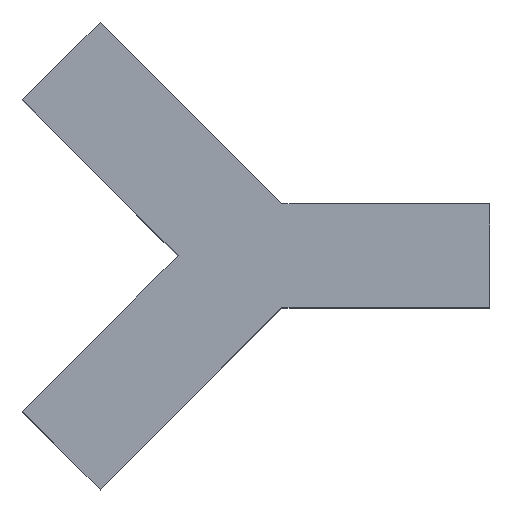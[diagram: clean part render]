
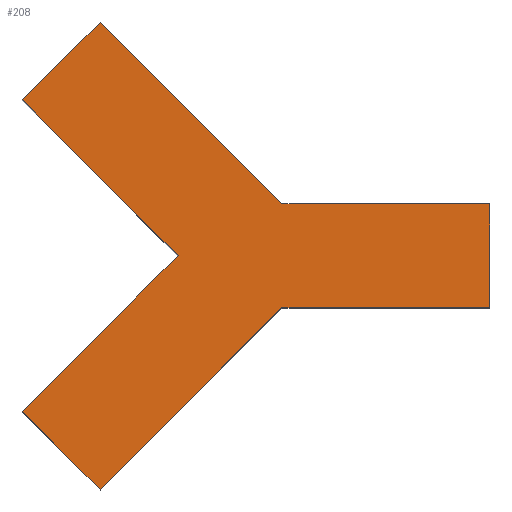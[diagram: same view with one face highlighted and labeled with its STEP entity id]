
A CAD part, top view. The second image highlights one B-rep face of the part: STEP entity #208.
In plain terms, the highlighted planar face has unit normal (0, 0, 1).
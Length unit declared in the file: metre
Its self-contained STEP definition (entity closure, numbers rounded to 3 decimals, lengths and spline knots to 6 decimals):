
#57=ORIENTED_EDGE('',*,*,#92,.T.);
#58=ORIENTED_EDGE('',*,*,#89,.T.);
#59=ORIENTED_EDGE('',*,*,#86,.T.);
#60=ORIENTED_EDGE('',*,*,#83,.T.);
#61=ORIENTED_EDGE('',*,*,#80,.T.);
#62=ORIENTED_EDGE('',*,*,#77,.T.);
#63=ORIENTED_EDGE('',*,*,#74,.T.);
#64=ORIENTED_EDGE('',*,*,#71,.T.);
#65=ORIENTED_EDGE('',*,*,#68,.T.);
#68=EDGE_CURVE('',#96,#95,#113,.T.);
#71=EDGE_CURVE('',#98,#96,#116,.T.);
#74=EDGE_CURVE('',#100,#98,#119,.F.);
#77=EDGE_CURVE('',#102,#100,#122,.F.);
#80=EDGE_CURVE('',#104,#102,#125,.T.);
#83=EDGE_CURVE('',#106,#104,#128,.T.);
#86=EDGE_CURVE('',#108,#106,#131,.T.);
#89=EDGE_CURVE('',#110,#108,#134,.T.);
#92=EDGE_CURVE('',#95,#110,#137,.T.);
#95=VERTEX_POINT('',#282);
#96=VERTEX_POINT('',#284);
#98=VERTEX_POINT('',#290);
#100=VERTEX_POINT('',#296);
#102=VERTEX_POINT('',#302);
#104=VERTEX_POINT('',#308);
#106=VERTEX_POINT('',#314);
#108=VERTEX_POINT('',#320);
#110=VERTEX_POINT('',#326);
#113=LINE('',#283,#140);
#116=LINE('',#289,#143);
#119=LINE('',#295,#146);
#122=LINE('',#301,#149);
#125=LINE('',#307,#152);
#128=LINE('',#313,#155);
#131=LINE('',#319,#158);
#134=LINE('',#325,#161);
#137=LINE('',#330,#164);
#140=VECTOR('',#231,1.);
#143=VECTOR('',#236,1.);
#146=VECTOR('',#241,1.);
#149=VECTOR('',#246,1.);
#152=VECTOR('',#251,1.);
#155=VECTOR('',#256,1.);
#158=VECTOR('',#261,1.);
#161=VECTOR('',#266,1.);
#164=VECTOR('',#271,1.);
#175=EDGE_LOOP('',(#57,#58,#59,#60,#61,#62,#63,#64,#65));
#186=FACE_BOUND('',#175,.T.);
#197=PLANE('',#224);
#208=ADVANCED_FACE('',(#186),#197,.T.);
#224=AXIS2_PLACEMENT_3D('',#332,#274,#275);
#231=DIRECTION('',(-0.707,0.707,0.));
#236=DIRECTION('',(-1.,0.,0.));
#241=DIRECTION('',(0.,-1.,0.));
#246=DIRECTION('',(-1.,0.,0.));
#251=DIRECTION('',(0.707,0.707,0.));
#256=DIRECTION('',(0.707,-0.707,0.));
#261=DIRECTION('',(-0.707,-0.707,0.));
#266=DIRECTION('',(0.707,-0.707,0.));
#271=DIRECTION('',(-0.707,-0.707,0.));
#274=DIRECTION('',(0.,0.,1.));
#275=DIRECTION('',(-1.,0.,0.));
#282=CARTESIAN_POINT('',(-0.015538,-0.00335,-0.0295));
#283=CARTESIAN_POINT('',(-0.015188,-0.0037,-0.0295));
#284=CARTESIAN_POINT('',(-0.015188,-0.0037,-0.0295));
#289=CARTESIAN_POINT('',(-0.015238,-0.0037,-0.0295));
#290=CARTESIAN_POINT('',(-0.014788,-0.0037,-0.0295));
#295=CARTESIAN_POINT('',(-0.014788,-0.0038,-0.0295));
#296=CARTESIAN_POINT('',(-0.014788,-0.0039,-0.0295));
#301=CARTESIAN_POINT('',(-0.015238,-0.0039,-0.0295));
#302=CARTESIAN_POINT('',(-0.015188,-0.0039,-0.0295));
#307=CARTESIAN_POINT('',(-0.015538,-0.00425,-0.0295));
#308=CARTESIAN_POINT('',(-0.015538,-0.00425,-0.0295));
#313=CARTESIAN_POINT('',(-0.015688,-0.0041,-0.0295));
#314=CARTESIAN_POINT('',(-0.015688,-0.0041,-0.0295));
#319=CARTESIAN_POINT('',(-0.015388,-0.0038,-0.0295));
#320=CARTESIAN_POINT('',(-0.015388,-0.0038,-0.0295));
#325=CARTESIAN_POINT('',(-0.015688,-0.0035,-0.0295));
#326=CARTESIAN_POINT('',(-0.015688,-0.0035,-0.0295));
#330=CARTESIAN_POINT('',(-0.015538,-0.00335,-0.0295));
#332=CARTESIAN_POINT('',(-0.015238,-0.0038,-0.0295));
